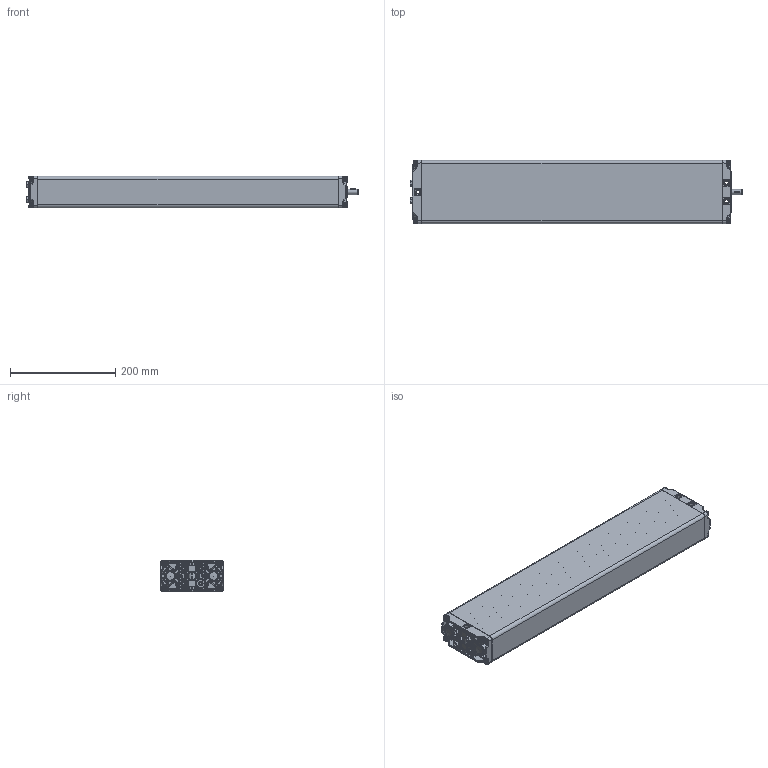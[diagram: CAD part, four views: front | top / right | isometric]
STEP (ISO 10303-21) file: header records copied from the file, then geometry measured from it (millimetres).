
FILE_DESCRIPTION(/* description */ ('Unknown'),/* implementation_level */ '2;1');
FILE_NAME(/* name */ '102.20080 Pumpe PB 3670 W',/* time_stamp */ '2016-10-07T16:40:56+02:00',/* author */ ('Unknown'),/* organization */ ('Unknown'),/* preprocessor_version */ 'ST-DEVELOPER v16.7',/* originating_system */ 'DEX',/* authorisation */ $);
FILE_SCHEMA (('AP242_MANAGED_MODEL_BASED_3D_ENGINEERING_MIM_LF { 1 0 10303 442 1 1 4 }','AUTOMOTIVE_DESIGN {1 0 10303 214 3 1 1}'));
Products named in the file (15): 102.20080; 115.00044; 125.00046; 142.00021; 125.00021; 115.00003; 142.00013; 125.00144; 115.00140; 126.00006; 122.00040; 119.00044; 126.00005; 142.00057; 142.00110
Assembly tree (25 placements, depth 3):
  102.20080
    115.00044  x3
      125.00046
      142.00021
      125.00021
      115.00003
    142.00013  x8
    125.00046
    125.00144
    115.00140
      126.00006
      122.00040
    119.00044
    126.00005
    142.00057
    142.00110  x2
Bounding box: 629.47 x 120 x 60.3 mm (x, y, z)
Volume: 779249.2 mm3; surface area: 526996.1 mm2
Topology: 26 solids, 26 shells, 2486 faces, 5889 edges, 3383 vertices
Faces by surface type: bspline 704, plane 656, cylinder 557, cone 339, torus 171, sphere 59
Full cylindrical faces by diameter (mm): 3.5 x4, 4.1 x3, 4.2 x4, 5 x8, 6.917 x8, 8 x7, 9.8 x8, 10 x3, 10.4 x1, 14 x1, 15.8 x2, 17.3 x4, 18 x3, 19 x1, 21.2 x2, 22.4 x4, 25.9 x8
Entity records: 97701 total; most frequent: CARTESIAN_POINT 54084, ORIENTED_EDGE 8246, DIRECTION 6581, EDGE_CURVE 4123, AXIS2_PLACEMENT_3D 2648, VERTEX_POINT 2525, FACE_BOUND 1992, EDGE_LOOP 1991
